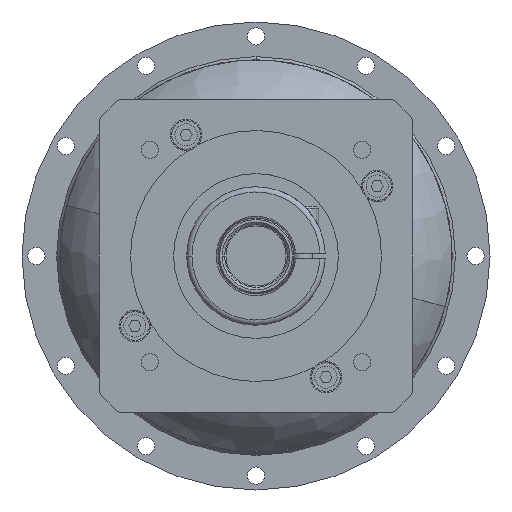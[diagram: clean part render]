
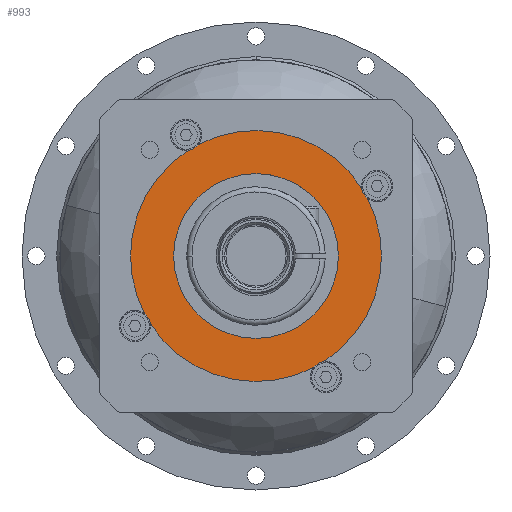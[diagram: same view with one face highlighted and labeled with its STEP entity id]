
A CAD part, left-side view. The second image highlights one B-rep face of the part: STEP entity #993.
In plain terms, the highlighted planar face has unit normal (-1, 0, 0).
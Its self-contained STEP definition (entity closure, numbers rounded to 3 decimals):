
#993=ADVANCED_FACE('',(#2054,#2055),#2056,.F.);
#2054=FACE_BOUND('',#3172,.T.);
#2055=FACE_OUTER_BOUND('',#3173,.T.);
#2056=PLANE('',#3174);
#3172=EDGE_LOOP('',(#5782,#5783));
#3173=EDGE_LOOP('',(#5784,#5785,#5786,#5787,#5788,#5789,#5790,#5791,#5792,#5793));
#3174=AXIS2_PLACEMENT_3D('',#5794,#5795,#5796);
#5782=ORIENTED_EDGE('',*,*,#7019,.T.);
#5783=ORIENTED_EDGE('',*,*,#7210,.T.);
#5784=ORIENTED_EDGE('',*,*,#7002,.F.);
#5785=ORIENTED_EDGE('',*,*,#7213,.F.);
#5786=ORIENTED_EDGE('',*,*,#7009,.F.);
#5787=ORIENTED_EDGE('',*,*,#7214,.F.);
#5788=ORIENTED_EDGE('',*,*,#7215,.F.);
#5789=ORIENTED_EDGE('',*,*,#7216,.F.);
#5790=ORIENTED_EDGE('',*,*,#7012,.F.);
#5791=ORIENTED_EDGE('',*,*,#7217,.F.);
#5792=ORIENTED_EDGE('',*,*,#6993,.F.);
#5793=ORIENTED_EDGE('',*,*,#7218,.F.);
#5794=CARTESIAN_POINT('',(-85.5,0.0,0.));
#5795=DIRECTION('',(1.0,0.0,0.0));
#5796=DIRECTION('',(0.0,1.0,0.0));
#6993=EDGE_CURVE('',#8453,#8455,#8456,.T.);
#7002=EDGE_CURVE('',#8470,#8472,#8473,.T.);
#7009=EDGE_CURVE('',#8483,#8479,#8485,.T.);
#7012=EDGE_CURVE('',#8487,#8490,#8491,.T.);
#7019=EDGE_CURVE('',#8497,#8501,#8503,.T.);
#7210=EDGE_CURVE('',#8501,#8497,#8779,.T.);
#7213=EDGE_CURVE('',#8479,#8470,#8782,.T.);
#7214=EDGE_CURVE('',#8783,#8483,#8784,.T.);
#7215=EDGE_CURVE('',#8785,#8783,#8786,.T.);
#7216=EDGE_CURVE('',#8490,#8785,#8787,.T.);
#7217=EDGE_CURVE('',#8455,#8487,#8788,.T.);
#7218=EDGE_CURVE('',#8472,#8453,#8789,.T.);
#8453=VERTEX_POINT('',#10987);
#8455=VERTEX_POINT('',#10990);
#8456=CIRCLE('',#10991,6.0);
#8470=VERTEX_POINT('',#11008);
#8472=VERTEX_POINT('',#11011);
#8473=CIRCLE('',#11012,6.0);
#8479=VERTEX_POINT('',#11019);
#8483=VERTEX_POINT('',#11024);
#8485=CIRCLE('',#11027,48.0);
#8487=VERTEX_POINT('',#11029);
#8490=VERTEX_POINT('',#11033);
#8491=CIRCLE('',#11034,48.0);
#8497=VERTEX_POINT('',#11041);
#8501=VERTEX_POINT('',#11046);
#8503=CIRCLE('',#11049,31.5);
#8779=CIRCLE('',#11482,31.5);
#8782=CIRCLE('',#11485,48.0);
#8783=VERTEX_POINT('',#11486);
#8784=CIRCLE('',#11487,6.0);
#8785=VERTEX_POINT('',#11488);
#8786=CIRCLE('',#11489,48.0);
#8787=CIRCLE('',#11490,6.0);
#8788=CIRCLE('',#11491,48.0);
#8789=CIRCLE('',#11492,48.0);
#10987=CARTESIAN_POINT('',(-85.5,40.387,-25.94));
#10990=CARTESIAN_POINT('',(-85.5,42.658,-22.007));
#10991=AXIS2_PLACEMENT_3D('',#13035,#13036,#13037);
#11008=CARTESIAN_POINT('',(-85.5,-25.94,-40.387));
#11011=CARTESIAN_POINT('',(-85.5,-22.007,-42.658));
#11012=AXIS2_PLACEMENT_3D('',#13051,#13052,#13053);
#11019=CARTESIAN_POINT('',(-85.5,-48.0,0.));
#11024=CARTESIAN_POINT('',(-85.5,-42.658,22.007));
#11027=AXIS2_PLACEMENT_3D('',#13063,#13064,#13065);
#11029=CARTESIAN_POINT('',(-85.5,48.0,0.));
#11033=CARTESIAN_POINT('',(-85.5,25.94,40.387));
#11034=AXIS2_PLACEMENT_3D('',#13067,#13068,#13069);
#11041=CARTESIAN_POINT('',(-85.5,31.5,0.));
#11046=CARTESIAN_POINT('',(-85.5,-31.5,0.));
#11049=AXIS2_PLACEMENT_3D('',#13079,#13080,#13081);
#11482=AXIS2_PLACEMENT_3D('',#13286,#13287,#13288);
#11485=AXIS2_PLACEMENT_3D('',#13292,#13293,#13294);
#11486=CARTESIAN_POINT('',(-85.5,-40.387,25.94));
#11487=AXIS2_PLACEMENT_3D('',#13295,#13296,#13297);
#11488=CARTESIAN_POINT('',(-85.5,22.007,42.658));
#11489=AXIS2_PLACEMENT_3D('',#13298,#13299,#13300);
#11490=AXIS2_PLACEMENT_3D('',#13301,#13302,#13303);
#11491=AXIS2_PLACEMENT_3D('',#13304,#13305,#13306);
#11492=AXIS2_PLACEMENT_3D('',#13307,#13308,#13309);
#13035=CARTESIAN_POINT('',(-85.5,46.332,-26.75));
#13036=DIRECTION('',(-1.0,0.0,0.0));
#13037=DIRECTION('',(0.0,1.0,0.0));
#13051=CARTESIAN_POINT('',(-85.5,-26.75,-46.332));
#13052=DIRECTION('',(-1.0,0.0,0.0));
#13053=DIRECTION('',(0.0,1.0,0.0));
#13063=CARTESIAN_POINT('',(-85.5,0.0,0.));
#13064=DIRECTION('',(1.0,0.0,0.0));
#13065=DIRECTION('',(0.0,1.0,0.0));
#13067=CARTESIAN_POINT('',(-85.5,0.0,0.));
#13068=DIRECTION('',(1.0,0.0,0.0));
#13069=DIRECTION('',(0.0,1.0,0.0));
#13079=CARTESIAN_POINT('',(-85.5,0.0,0.));
#13080=DIRECTION('',(1.0,0.0,0.0));
#13081=DIRECTION('',(0.0,1.0,0.0));
#13286=CARTESIAN_POINT('',(-85.5,0.0,0.));
#13287=DIRECTION('',(1.0,0.0,0.0));
#13288=DIRECTION('',(0.0,1.0,0.0));
#13292=CARTESIAN_POINT('',(-85.5,0.0,0.));
#13293=DIRECTION('',(1.0,0.0,0.0));
#13294=DIRECTION('',(0.0,1.0,0.0));
#13295=CARTESIAN_POINT('',(-85.5,-46.332,26.75));
#13296=DIRECTION('',(-1.0,0.0,0.0));
#13297=DIRECTION('',(0.0,1.0,0.0));
#13298=CARTESIAN_POINT('',(-85.5,0.0,0.));
#13299=DIRECTION('',(1.0,0.0,0.0));
#13300=DIRECTION('',(0.0,1.0,0.0));
#13301=CARTESIAN_POINT('',(-85.5,26.75,46.332));
#13302=DIRECTION('',(-1.0,0.0,0.0));
#13303=DIRECTION('',(0.0,1.0,0.0));
#13304=CARTESIAN_POINT('',(-85.5,0.0,0.));
#13305=DIRECTION('',(1.0,0.0,0.0));
#13306=DIRECTION('',(0.0,1.0,0.0));
#13307=CARTESIAN_POINT('',(-85.5,0.0,0.));
#13308=DIRECTION('',(1.0,0.0,0.0));
#13309=DIRECTION('',(0.0,1.0,0.0));
